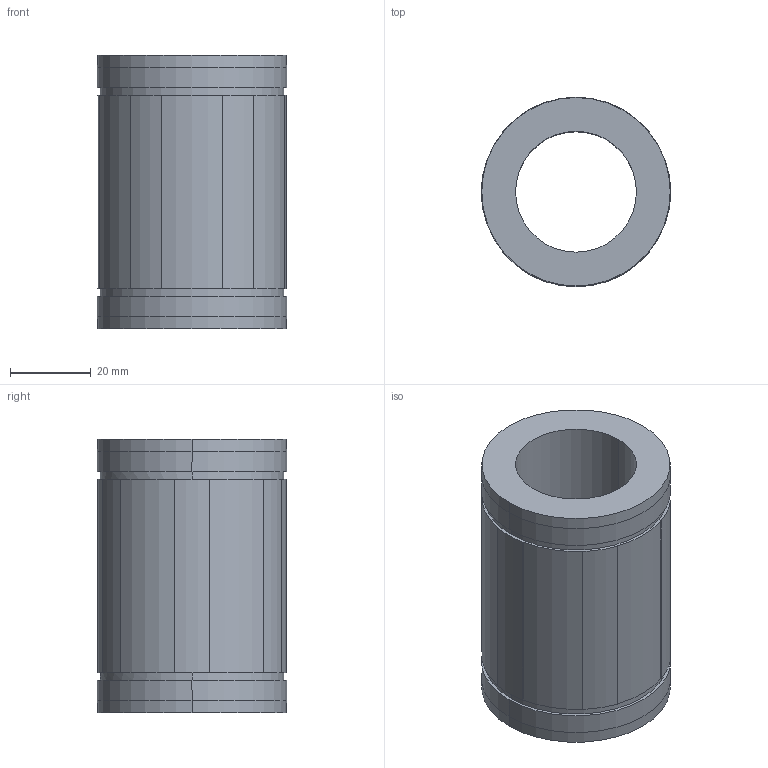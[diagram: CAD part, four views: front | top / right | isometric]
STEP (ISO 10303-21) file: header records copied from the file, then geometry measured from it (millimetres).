
FILE_DESCRIPTION((''),'2;1');
FILE_NAME('C:\Documents and Settings\ｿﾀﾀ蠑ｷ1\ｹﾙﾅﾁ ﾈｭｸ饅\ｺﾎﾇｰﾆﾄﾀﾏ\ﾁｦﾇｰ\LMES__UU\LMES30UU.stp','2005-06-15T14:05:36',('ｿﾀﾀ蠑ｷ1'),(''),'Autodesk Inventor 9','Autodesk Inventor 9','');
FILE_SCHEMA(('AUTOMOTIVE_DESIGN { 1 0 10303 214 1 1 1 1 }'));
Length unit declared in the file: millimetre
Products named in the file (1): LMES__
Bounding box: 47 x 47 x 68 mm (x, y, z)
Volume: 69002.2 mm3; surface area: 18902.3 mm2
Topology: 1 solids, 1 shells, 44 faces, 112 edges, 74 vertices
Faces by surface type: cylinder 22, plane 18, cone 4
Entity records: 1377 total; most frequent: DIRECTION 252, CARTESIAN_POINT 231, ORIENTED_EDGE 224, EDGE_CURVE 112, AXIS2_PLACEMENT_3D 95, VERTEX_POINT 74, VECTOR 62, LINE 62
